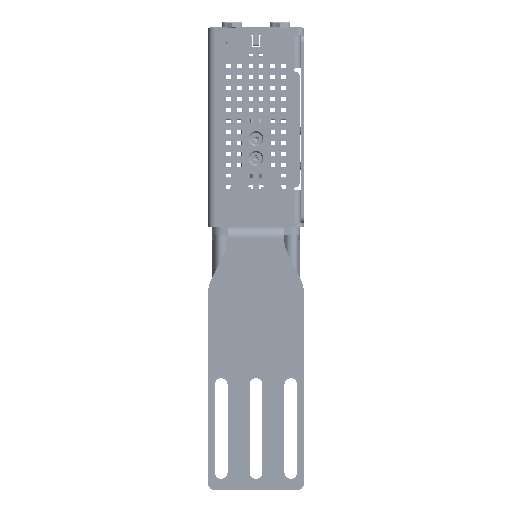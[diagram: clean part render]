
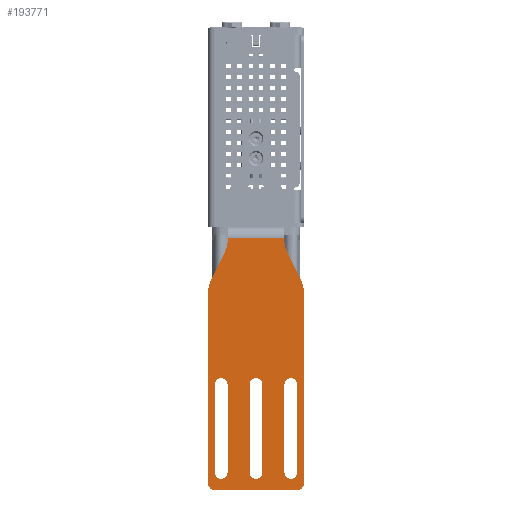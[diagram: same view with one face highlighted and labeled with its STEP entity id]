
A CAD part, left-side view. The second image highlights one B-rep face of the part: STEP entity #193771.
In plain terms, the highlighted planar face has unit normal (1, 0, 0).
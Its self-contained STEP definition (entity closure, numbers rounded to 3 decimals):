
#84188=DIRECTION('',(0.,1.,0.));
#84189=VECTOR('',#84188,25.66);
#84190=CARTESIAN_POINT('',(240.4,-12.826,-18.496));
#84191=LINE('',#84190,#84189);
#84925=DIRECTION('',(0.,0.,1.));
#84926=VECTOR('',#84925,0.459);
#84927=CARTESIAN_POINT('',(240.4,-12.826,-18.954));
#84928=LINE('',#84927,#84926);
#84960=CARTESIAN_POINT('',(240.4,6.834,-44.037));
#84961=DIRECTION('',(1.,0.,0.));
#84962=DIRECTION('',(0.,1.,0.));
#84963=AXIS2_PLACEMENT_3D('',#84960,#84961,#84962);
#84968=CARTESIAN_POINT('',(240.4,18.834,-130.496));
#84969=DIRECTION('',(1.,0.,0.));
#84970=DIRECTION('',(0.,0.,-1.));
#84971=AXIS2_PLACEMENT_3D('',#84968,#84969,#84970);
#84976=CARTESIAN_POINT('',(240.4,-18.826,-130.496));
#84977=DIRECTION('',(1.,0.,0.));
#84978=DIRECTION('',(0.,-1.,0.));
#84979=AXIS2_PLACEMENT_3D('',#84976,#84977,#84978);
#84984=CARTESIAN_POINT('',(240.4,-6.826,-44.037));
#84985=DIRECTION('',(1.,0.,0.));
#84986=DIRECTION('',(0.,-0.894,0.447));
#84987=AXIS2_PLACEMENT_3D('',#84984,#84985,#84986);
#84992=DIRECTION('',(0.,-0.447,-0.894));
#84993=VECTOR('',#84992,13.043);
#84994=CARTESIAN_POINT('',(240.4,-14.41,-25.663));
#84995=LINE('',#84994,#84993);
#84999=CARTESIAN_POINT('',(240.4,-27.826,-18.954));
#85000=DIRECTION('',(-1.,0.,0.));
#85001=DIRECTION('',(0.,1.,0.));
#85002=AXIS2_PLACEMENT_3D('',#84999,#85000,#85001);
#85007=CARTESIAN_POINT('',(240.4,27.834,-18.954));
#85008=DIRECTION('',(-1.,0.,0.));
#85009=DIRECTION('',(0.,-0.894,-0.447));
#85010=AXIS2_PLACEMENT_3D('',#85007,#85008,#85009);
#85015=DIRECTION('',(0.,-0.447,0.894));
#85016=VECTOR('',#85015,13.043);
#85017=CARTESIAN_POINT('',(240.4,20.25,-37.328));
#85018=LINE('',#85017,#85016);
#85022=CARTESIAN_POINT('',(240.4,0.004,-85.496));
#85023=DIRECTION('',(-1.,0.,0.));
#85024=DIRECTION('',(0.,-1.,0.));
#85025=AXIS2_PLACEMENT_3D('',#85022,#85023,#85024);
#85030=CARTESIAN_POINT('',(240.4,0.004,-125.496));
#85031=DIRECTION('',(-1.,0.,0.));
#85032=DIRECTION('',(0.,1.,0.));
#85033=AXIS2_PLACEMENT_3D('',#85030,#85031,#85032);
#85038=CARTESIAN_POINT('',(240.4,-15.876,-85.496));
#85039=DIRECTION('',(-1.,0.,0.));
#85040=DIRECTION('',(0.,-1.,0.));
#85041=AXIS2_PLACEMENT_3D('',#85038,#85039,#85040);
#85046=CARTESIAN_POINT('',(240.4,-15.876,-125.496));
#85047=DIRECTION('',(-1.,0.,0.));
#85048=DIRECTION('',(0.,1.,0.));
#85049=AXIS2_PLACEMENT_3D('',#85046,#85047,#85048);
#85054=CARTESIAN_POINT('',(240.4,15.884,-85.496));
#85055=DIRECTION('',(-1.,0.,0.));
#85056=DIRECTION('',(0.,-1.,0.));
#85057=AXIS2_PLACEMENT_3D('',#85054,#85055,#85056);
#85062=CARTESIAN_POINT('',(240.4,15.884,-125.496));
#85063=DIRECTION('',(-1.,0.,0.));
#85064=DIRECTION('',(0.,1.,0.));
#85065=AXIS2_PLACEMENT_3D('',#85062,#85063,#85064);
#85098=DIRECTION('',(0.,0.,1.));
#85099=VECTOR('',#85098,0.459);
#85100=CARTESIAN_POINT('',(240.4,12.834,-18.954));
#85101=LINE('',#85100,#85099);
#86299=DIRECTION('',(0.,0.,1.));
#86300=VECTOR('',#86299,86.459);
#86301=CARTESIAN_POINT('',(240.4,-21.826,-130.496));
#86302=LINE('',#86301,#86300);
#86334=DIRECTION('',(0.,-1.,0.));
#86335=VECTOR('',#86334,37.66);
#86336=CARTESIAN_POINT('',(240.4,18.834,-133.496));
#86337=LINE('',#86336,#86335);
#86362=DIRECTION('',(0.,0.,-1.));
#86363=VECTOR('',#86362,86.459);
#86364=CARTESIAN_POINT('',(240.4,21.834,-44.037));
#86365=LINE('',#86364,#86363);
#86369=DIRECTION('',(0.,0.,1.));
#86370=VECTOR('',#86369,40.);
#86371=CARTESIAN_POINT('',(240.4,2.924,-125.496));
#86372=LINE('',#86371,#86370);
#86397=DIRECTION('',(0.,0.,-1.));
#86398=VECTOR('',#86397,40.);
#86399=CARTESIAN_POINT('',(240.4,-2.916,-85.496));
#86400=LINE('',#86399,#86398);
#86425=DIRECTION('',(0.,0.,1.));
#86426=VECTOR('',#86425,40.);
#86427=CARTESIAN_POINT('',(240.4,18.804,-125.496));
#86428=LINE('',#86427,#86426);
#86453=DIRECTION('',(0.,0.,-1.));
#86454=VECTOR('',#86453,40.);
#86455=CARTESIAN_POINT('',(240.4,12.964,-85.496));
#86456=LINE('',#86455,#86454);
#86481=DIRECTION('',(0.,0.,1.));
#86482=VECTOR('',#86481,40.);
#86483=CARTESIAN_POINT('',(240.4,-12.956,-125.496));
#86484=LINE('',#86483,#86482);
#86509=DIRECTION('',(0.,0.,-1.));
#86510=VECTOR('',#86509,40.);
#86511=CARTESIAN_POINT('',(240.4,-18.796,-85.496));
#86512=LINE('',#86511,#86510);
#131877=CARTESIAN_POINT('',(240.4,21.834,-44.037));
#131878=CARTESIAN_POINT('',(240.4,20.25,-37.328));
#131879=VERTEX_POINT('',#131877);
#131880=VERTEX_POINT('',#131878);
#131881=CARTESIAN_POINT('',(240.4,21.834,-130.496));
#131882=VERTEX_POINT('',#131881);
#131883=CARTESIAN_POINT('',(240.4,18.834,-133.496));
#131884=VERTEX_POINT('',#131883);
#131885=CARTESIAN_POINT('',(240.4,-18.826,-133.496));
#131886=VERTEX_POINT('',#131885);
#131887=CARTESIAN_POINT('',(240.4,-21.826,-130.496));
#131888=VERTEX_POINT('',#131887);
#131889=CARTESIAN_POINT('',(240.4,-21.826,-44.037));
#131890=VERTEX_POINT('',#131889);
#131891=CARTESIAN_POINT('',(240.4,-20.242,-37.328));
#131892=VERTEX_POINT('',#131891);
#131893=CARTESIAN_POINT('',(240.4,-14.41,-25.663));
#131894=VERTEX_POINT('',#131893);
#131895=CARTESIAN_POINT('',(240.4,-12.826,-18.954));
#131896=VERTEX_POINT('',#131895);
#131897=CARTESIAN_POINT('',(240.4,-12.826,-18.496));
#131898=VERTEX_POINT('',#131897);
#131899=CARTESIAN_POINT('',(240.4,12.834,-18.496));
#131900=VERTEX_POINT('',#131899);
#131901=CARTESIAN_POINT('',(240.4,12.834,-18.954));
#131902=VERTEX_POINT('',#131901);
#131903=CARTESIAN_POINT('',(240.4,14.418,-25.663));
#131904=VERTEX_POINT('',#131903);
#131905=CARTESIAN_POINT('',(240.4,2.924,-125.496));
#131906=CARTESIAN_POINT('',(240.4,2.924,-85.496));
#131907=VERTEX_POINT('',#131905);
#131908=VERTEX_POINT('',#131906);
#131909=CARTESIAN_POINT('',(240.4,-2.916,-85.496));
#131910=VERTEX_POINT('',#131909);
#131911=CARTESIAN_POINT('',(240.4,-2.916,-125.496));
#131912=VERTEX_POINT('',#131911);
#131913=CARTESIAN_POINT('',(240.4,-12.956,-125.496));
#131914=CARTESIAN_POINT('',(240.4,-12.956,-85.496));
#131915=VERTEX_POINT('',#131913);
#131916=VERTEX_POINT('',#131914);
#131917=CARTESIAN_POINT('',(240.4,-18.796,-85.496));
#131918=VERTEX_POINT('',#131917);
#131919=CARTESIAN_POINT('',(240.4,-18.796,-125.496));
#131920=VERTEX_POINT('',#131919);
#131921=CARTESIAN_POINT('',(240.4,18.804,-125.496));
#131922=CARTESIAN_POINT('',(240.4,18.804,-85.496));
#131923=VERTEX_POINT('',#131921);
#131924=VERTEX_POINT('',#131922);
#131925=CARTESIAN_POINT('',(240.4,12.964,-85.496));
#131926=VERTEX_POINT('',#131925);
#131927=CARTESIAN_POINT('',(240.4,12.964,-125.496));
#131928=VERTEX_POINT('',#131927);
#193711=CARTESIAN_POINT('',(240.4,0.004,-75.996));
#193712=DIRECTION('',(1.,0.,0.));
#193713=DIRECTION('',(0.,0.,-1.));
#193714=AXIS2_PLACEMENT_3D('',#193711,#193712,#193713);
#193715=PLANE('',#193714);
#193717=ORIENTED_EDGE('',*,*,#193716,.F.);
#193719=ORIENTED_EDGE('',*,*,#193718,.T.);
#193721=ORIENTED_EDGE('',*,*,#193720,.F.);
#193723=ORIENTED_EDGE('',*,*,#193722,.T.);
#193725=ORIENTED_EDGE('',*,*,#193724,.F.);
#193727=ORIENTED_EDGE('',*,*,#193726,.T.);
#193728=ORIENTED_EDGE('',*,*,#193701,.F.);
#193729=ORIENTED_EDGE('',*,*,#193691,.F.);
#193730=ORIENTED_EDGE('',*,*,#193676,.F.);
#193731=ORIENTED_EDGE('',*,*,#193661,.T.);
#193732=ORIENTED_EDGE('',*,*,#192504,.T.);
#193734=ORIENTED_EDGE('',*,*,#193733,.F.);
#193736=ORIENTED_EDGE('',*,*,#193735,.F.);
#193738=ORIENTED_EDGE('',*,*,#193737,.F.);
#193739=EDGE_LOOP('',(#193717,#193719,#193721,#193723,#193725,#193727,#193728,
#193729,#193730,#193731,#193732,#193734,#193736,#193738));
#193740=FACE_OUTER_BOUND('',#193739,.F.);
#193742=ORIENTED_EDGE('',*,*,#193741,.T.);
#193744=ORIENTED_EDGE('',*,*,#193743,.F.);
#193746=ORIENTED_EDGE('',*,*,#193745,.T.);
#193748=ORIENTED_EDGE('',*,*,#193747,.F.);
#193749=EDGE_LOOP('',(#193742,#193744,#193746,#193748));
#193750=FACE_BOUND('',#193749,.F.);
#193752=ORIENTED_EDGE('',*,*,#193751,.T.);
#193754=ORIENTED_EDGE('',*,*,#193753,.F.);
#193756=ORIENTED_EDGE('',*,*,#193755,.T.);
#193758=ORIENTED_EDGE('',*,*,#193757,.F.);
#193759=EDGE_LOOP('',(#193752,#193754,#193756,#193758));
#193760=FACE_BOUND('',#193759,.F.);
#193762=ORIENTED_EDGE('',*,*,#193761,.T.);
#193764=ORIENTED_EDGE('',*,*,#193763,.F.);
#193766=ORIENTED_EDGE('',*,*,#193765,.T.);
#193768=ORIENTED_EDGE('',*,*,#193767,.F.);
#193769=EDGE_LOOP('',(#193762,#193764,#193766,#193768));
#193770=FACE_BOUND('',#193769,.F.);
#84964=CIRCLE('',#84963,15.);
#84972=CIRCLE('',#84971,3.);
#84980=CIRCLE('',#84979,3.);
#84988=CIRCLE('',#84987,15.);
#85003=CIRCLE('',#85002,15.);
#85011=CIRCLE('',#85010,15.);
#85026=CIRCLE('',#85025,2.92);
#85034=CIRCLE('',#85033,2.92);
#85042=CIRCLE('',#85041,2.92);
#85050=CIRCLE('',#85049,2.92);
#85058=CIRCLE('',#85057,2.92);
#85066=CIRCLE('',#85065,2.92);
#192504=EDGE_CURVE('',#131898,#131900,#84191,.T.);
#193661=EDGE_CURVE('',#131896,#131898,#84928,.T.);
#193676=EDGE_CURVE('',#131896,#131894,#85003,.T.);
#193691=EDGE_CURVE('',#131894,#131892,#84995,.T.);
#193701=EDGE_CURVE('',#131892,#131890,#84988,.T.);
#193716=EDGE_CURVE('',#131879,#131880,#84964,.T.);
#193718=EDGE_CURVE('',#131879,#131882,#86365,.T.);
#193720=EDGE_CURVE('',#131884,#131882,#84972,.T.);
#193722=EDGE_CURVE('',#131884,#131886,#86337,.T.);
#193724=EDGE_CURVE('',#131888,#131886,#84980,.T.);
#193726=EDGE_CURVE('',#131888,#131890,#86302,.T.);
#193733=EDGE_CURVE('',#131902,#131900,#85101,.T.);
#193735=EDGE_CURVE('',#131904,#131902,#85011,.T.);
#193737=EDGE_CURVE('',#131880,#131904,#85018,.T.);
#193741=EDGE_CURVE('',#131907,#131908,#86372,.T.);
#193743=EDGE_CURVE('',#131910,#131908,#85026,.T.);
#193745=EDGE_CURVE('',#131910,#131912,#86400,.T.);
#193747=EDGE_CURVE('',#131907,#131912,#85034,.T.);
#193751=EDGE_CURVE('',#131915,#131916,#86484,.T.);
#193753=EDGE_CURVE('',#131918,#131916,#85042,.T.);
#193755=EDGE_CURVE('',#131918,#131920,#86512,.T.);
#193757=EDGE_CURVE('',#131915,#131920,#85050,.T.);
#193761=EDGE_CURVE('',#131923,#131924,#86428,.T.);
#193763=EDGE_CURVE('',#131926,#131924,#85058,.T.);
#193765=EDGE_CURVE('',#131926,#131928,#86456,.T.);
#193767=EDGE_CURVE('',#131923,#131928,#85066,.T.);
#193771=ADVANCED_FACE('',(#193740,#193750,#193760,#193770),#193715,.T.);
